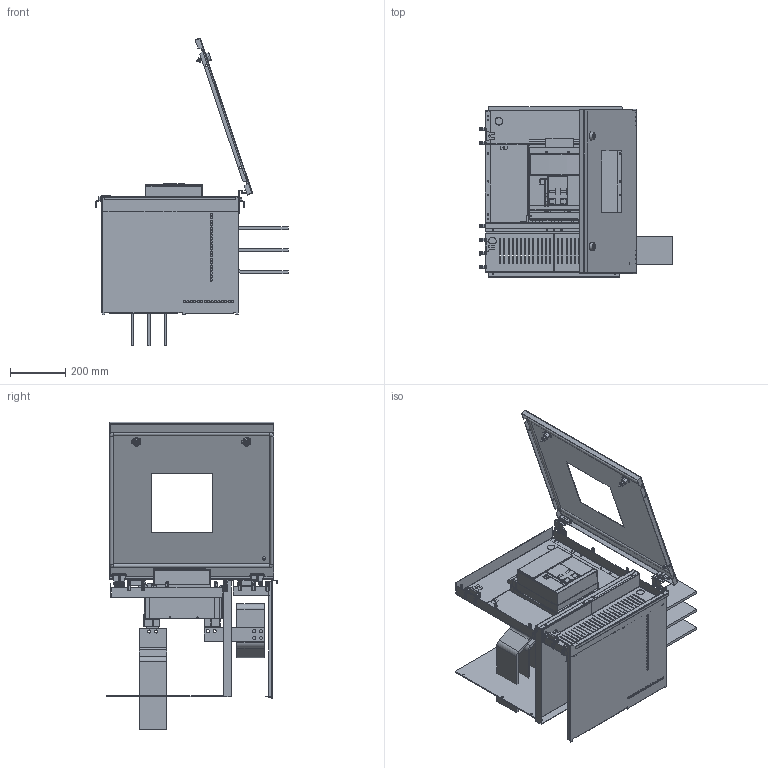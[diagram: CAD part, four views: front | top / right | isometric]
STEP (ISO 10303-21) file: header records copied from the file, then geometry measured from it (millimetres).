
FILE_DESCRIPTION(('CAx-IF Rec.Pracs.---Model Styling and Organization---1.2---2011-12-15','CAx-IF Rec.Pracs.---Geometric and Assembly Validation Properties---4.1---2014-06-16','CAx-IF Rec.Pracs.---PMI Polyline Presentation---2.0---2013-05-24'),'2;1');
FILE_NAME('R5M212IB2H61119S (one-side).stp','2021-05-05T12:45:20+03:00',(''),(''),'STEP Interface 4.4 by CT CoreTechnologie','3D_Evolution4.4 by CT CoreTechnologie','');
FILE_SCHEMA(('AUTOMOTIVE_DESIGN { 1 0 10303 214 1 1 1 1 }'));
Length unit declared in the file: millimetre
Products named in the file (37): R5M212IB2H61119S(îäíîñòîðîííèé); M6 x 16-DIN 7991 ISR_thread; ABBOF2_-00; AC00C485; MS737-1-1(1); MS737-1-1 stop_fixed; MS737-1-1 Z_ ªàëâ; SACE Emax 1.2 Fixed; E1.2 III F FIXING PONTS; E1.2 III F; E1.2 III F TERMINALS VR; RB.0687.00.00.1_-00; RB.1233.00.00.0_-00; RB.1429.00.00.0_-01; ABBDS3F_-00; ABBT1F_-00; RB.1227.00.00.0_-00; ABBOF1_-00; RB.1226.00.00.0_-00; ABBT3F_-00; RB.0116.00.00.3_-00; RB.1430.00.00.0 ÑÁ_-00 (Emax E1.2 F); Ì6õ12-A5100231_straight; AC00C266; RB.1430.00.01.0_-00 (Emax E1.2 F); PF 7x14 MCC2.0_0600x0600; AC00C061_AC00C061; RB.1427.00.00.0_-00; RB.1429.00.00.0_-00; AC00C745; MS737-1-1(2); ABBDS2F_-00; RB.1589.00.00.0_-00 (Emax F); ABBDS1F_-00; ABBT2F_-00; RB.1428.00.00.0_-00; RB.1227.00.00.0_-01
Assembly tree (70 placements, depth 3):
  R5M212IB2H61119S(îäíîñòîðîííèé)
    M6 x 16-DIN 7991 ISR_thread  x12
    ABBOF2_-00  x3
    AC00C485  x12
    MS737-1-1(1)
      MS737-1-1 stop_fixed
      MS737-1-1 Z_ ªàëâ
    SACE Emax 1.2 Fixed
      E1.2 III F FIXING PONTS
      E1.2 III F
      E1.2 III F TERMINALS VR  x2
    RB.0687.00.00.1_-00  x2
    RB.1233.00.00.0_-00
    RB.1429.00.00.0_-01
    ABBDS3F_-00
    ABBT1F_-00
    RB.1227.00.00.0_-00
    ABBOF1_-00  x3
    RB.1226.00.00.0_-00
    ABBT3F_-00
    RB.0116.00.00.3_-00  x2
    RB.1430.00.00.0 ÑÁ_-00 (Emax E1.2 F)
      Ì6õ12-A5100231_straight
      AC00C266  x2
      RB.1430.00.01.0_-00 (Emax E1.2 F)
      PF 7x14 MCC2.0_0600x0600
      AC00C061_AC00C061
    RB.1427.00.00.0_-00  x2
    RB.1429.00.00.0_-00
    AC00C745  x2
    MS737-1-1(2)
      MS737-1-1 stop_fixed
      MS737-1-1 Z_ ªàëâ
    ABBDS2F_-00
    RB.1589.00.00.0_-00 (Emax F)
    ABBDS1F_-00
    ABBT2F_-00
    RB.1428.00.00.0_-00
    RB.1227.00.00.0_-01
Bounding box: 696.5 x 617 x 1115.18 mm (x, y, z)
Surface area: 4566993.2 mm2 (no closed solid volume)
Topology: 0 solids, 119 shells, 4307 faces, 11480 edges, 7360 vertices
Faces by surface type: plane 2381, cylinder 1473, bspline 453
Entity records: 84334 total; most frequent: CARTESIAN_POINT 19173, ORIENTED_EDGE 13253, DIRECTION 12836, EDGE_CURVE 6632, VECTOR 4810, LINE 4810, VERTEX_POINT 4332, AXIS2_PLACEMENT_3D 4013
